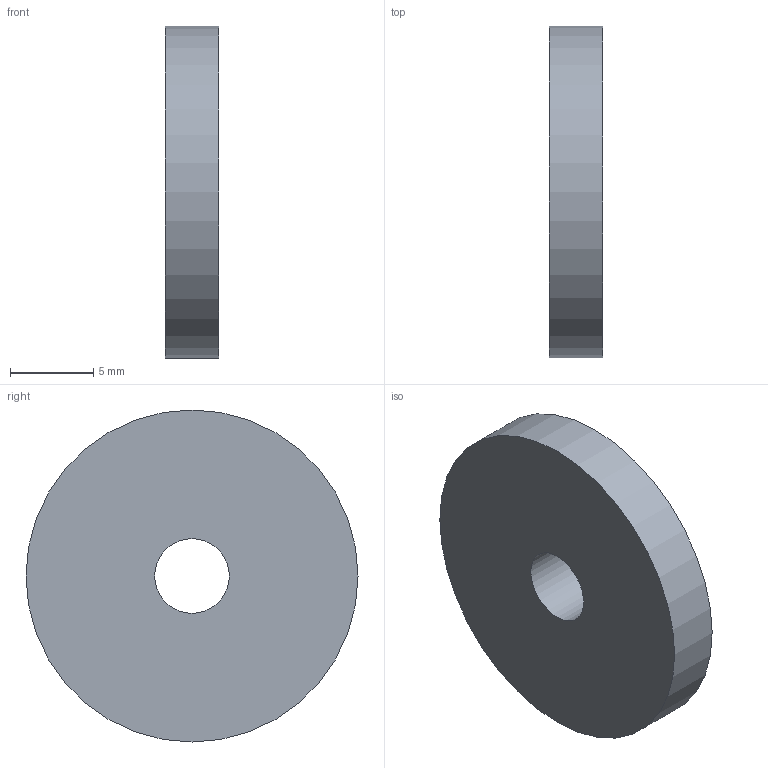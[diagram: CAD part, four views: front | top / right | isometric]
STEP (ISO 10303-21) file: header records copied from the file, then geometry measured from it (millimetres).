
FILE_DESCRIPTION(/* description */ (''),/* implementation_level */ '2;1');
FILE_NAME(/* name */ '',/* time_stamp */ '2026-03-26T11:23:16+09:00',/* author */ ('jhkim'),/* organization */ (''),/* preprocessor_version */ 'ST-DEVELOPER v20.1',/* originating_system */ 'Autodesk Inventor 2026',/* authorisation */ '');
FILE_SCHEMA (('AUTOMOTIVE_DESIGN { 1 0 10303 214 3 1 1 }'));
Length unit declared in the file: millimetre
Products named in the file (1): 엔드 캡
Bounding box: 3.2 x 20 x 20 mm (x, y, z)
Volume: 954.4 mm3; surface area: 842.8 mm2
Topology: 1 solids, 1 shells, 4 faces, 6 edges, 4 vertices
Faces by surface type: cylinder 2, plane 2
Full cylindrical faces by diameter (mm): 4.5 x1, 20 x1
Entity records: 141 total; most frequent: DIRECTION 20, CARTESIAN_POINT 15, ORIENTED_EDGE 12, AXIS2_PLACEMENT_3D 9, EDGE_LOOP 6, EDGE_CURVE 6, FACE_OUTER_BOUND 4, CIRCLE 4
